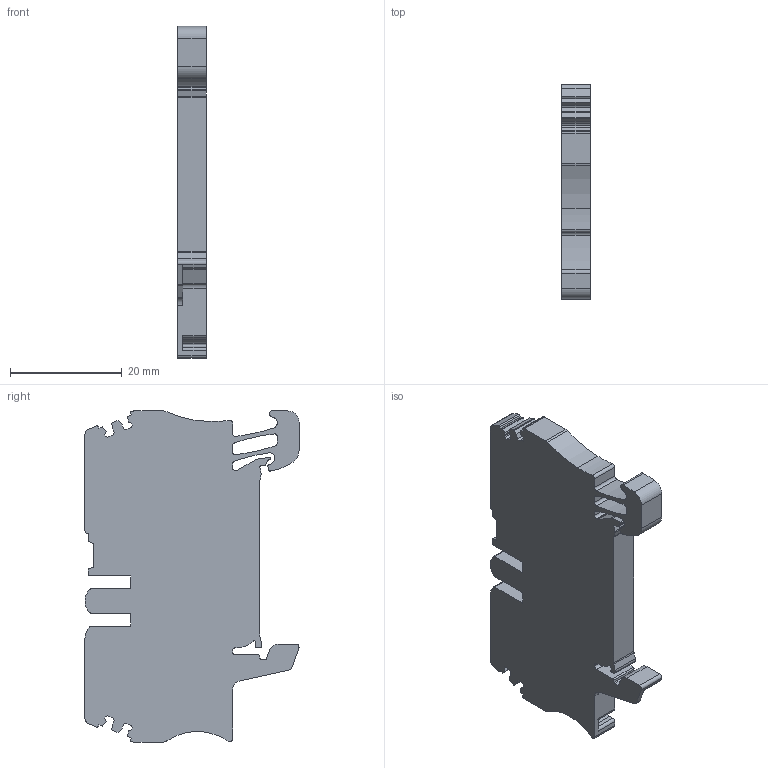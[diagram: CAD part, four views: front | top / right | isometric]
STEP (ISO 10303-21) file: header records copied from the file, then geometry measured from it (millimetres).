
FILE_DESCRIPTION( ( '' ), '1' );
FILE_NAME( '//expscmdclustefs.cadenas.external/client_exchange/iodir/jobs/output/wkb54602541_no0/STEP/ZDU_2_5_1608510000_2_03.stp', '2013-02-19T15:48:25', ( '' ), ( '' ), ' ', ' ', ' ' );
FILE_SCHEMA( ( 'CONFIG_CONTROL_DESIGN' ) );
Length unit declared in the file: millimetre
Products named in the file (1): 1
Bounding box: 5.1 x 38.35 x 59.48 mm (x, y, z)
Volume: 7892.9 mm3; surface area: 5597.1 mm2
Topology: 1 solids, 1 shells, 259 faces, 760 edges, 505 vertices
Faces by surface type: plane 143, cylinder 114, cone 2
Entity records: 8704 total; most frequent: CARTESIAN_POINT 1545, ORIENTED_EDGE 1520, DIRECTION 1506, EDGE_CURVE 760, LINE 526, VECTOR 526, VERTEX_POINT 505, AXIS2_PLACEMENT_3D 490
